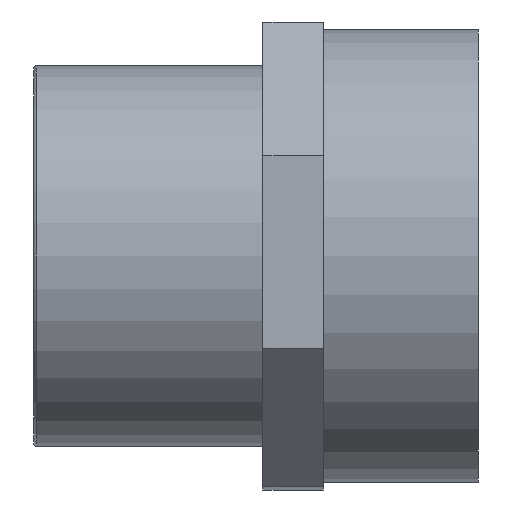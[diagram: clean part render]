
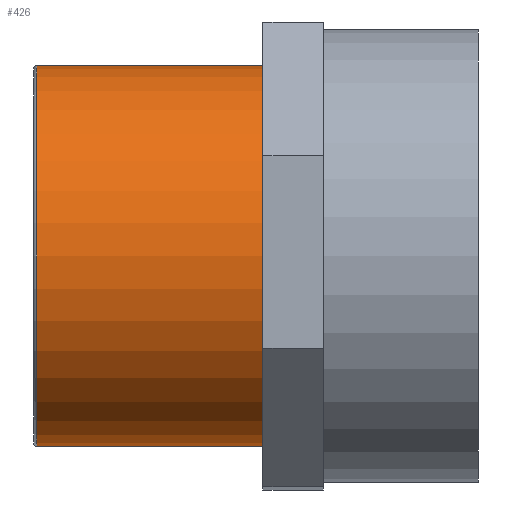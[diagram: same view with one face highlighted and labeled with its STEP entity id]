
A CAD part, front view. The second image highlights one B-rep face of the part: STEP entity #426.
In plain terms, the highlighted cylindrical face has radius 31.5 mm (diameter 63 mm), a full revolution.
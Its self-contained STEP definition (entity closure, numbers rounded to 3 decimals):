
#42=CYLINDRICAL_SURFACE('',#460,31.5);
#50=FACE_BOUND('',#116,.T.);
#61=CIRCLE('',#456,31.5);
#64=CIRCLE('',#461,31.5);
#85=FACE_OUTER_BOUND('',#115,.T.);
#115=EDGE_LOOP('',(#325));
#116=EDGE_LOOP('',(#326));
#208=VERTEX_POINT('',#628);
#211=VERTEX_POINT('',#636);
#257=EDGE_CURVE('',#208,#208,#61,.T.);
#260=EDGE_CURVE('',#211,#211,#64,.T.);
#325=ORIENTED_EDGE('',*,*,#260,.T.);
#326=ORIENTED_EDGE('',*,*,#257,.F.);
#426=ADVANCED_FACE('',(#85,#50),#42,.T.);
#456=AXIS2_PLACEMENT_3D('',#629,#526,#527);
#460=AXIS2_PLACEMENT_3D('',#635,#534,#535);
#461=AXIS2_PLACEMENT_3D('',#637,#536,#537);
#526=DIRECTION('center_axis',(-1.,0.,0.));
#527=DIRECTION('ref_axis',(0.,1.,0.));
#534=DIRECTION('center_axis',(-1.,0.,0.));
#535=DIRECTION('ref_axis',(0.,-1.,0.));
#536=DIRECTION('center_axis',(-1.,0.,0.));
#537=DIRECTION('ref_axis',(0.,0.,1.));
#628=CARTESIAN_POINT('',(2.101,-8.,0.));
#629=CARTESIAN_POINT('Origin',(2.101,23.5,0.));
#635=CARTESIAN_POINT('Origin',(20.601,23.5,0.));
#636=CARTESIAN_POINT('',(39.601,-8.,0.));
#637=CARTESIAN_POINT('Origin',(39.601,23.5,0.));
